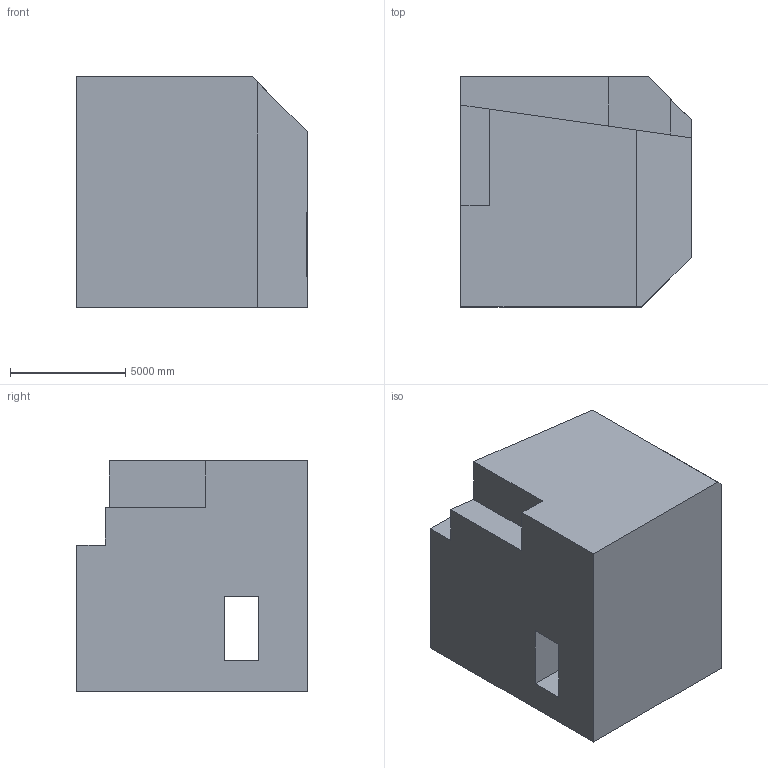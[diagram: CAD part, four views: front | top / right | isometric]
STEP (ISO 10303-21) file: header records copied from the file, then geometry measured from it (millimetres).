
FILE_DESCRIPTION (( 'STEP AP203' ), '1' );
FILE_NAME ('1628.STEP', '2022-08-19T11:10:06', ( 'user' ), ( '' ), 'SwSTEP 2.0', 'SolidWorks 2021', '' );
FILE_SCHEMA (( 'CONFIG_CONTROL_DESIGN' ));
Length unit declared in the file: centimetre
Products named in the file (1): 1628
Bounding box: 10000 x 10000 x 10000 mm (x, y, z)
Volume: 813144730438 mm3; surface area: 652238424.3 mm2
Topology: 1 solids, 1 shells, 23 faces, 66 edges, 44 vertices
Faces by surface type: plane 23
Entity records: 821 total; most frequent: CARTESIAN_POINT 134, ORIENTED_EDGE 132, DIRECTION 114, VECTOR 66, LINE 66, EDGE_CURVE 66, VERTEX_POINT 44, EDGE_LOOP 24
